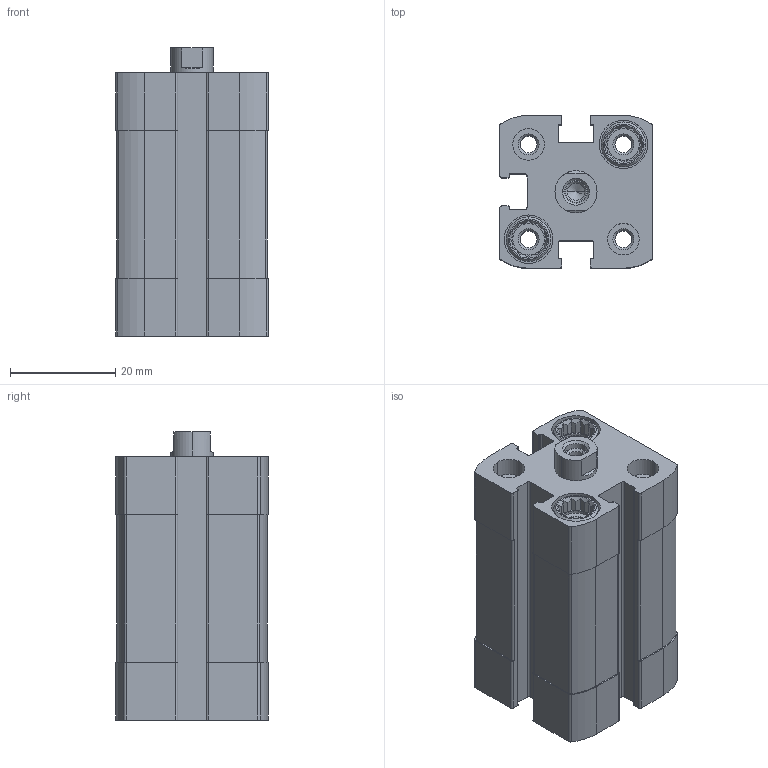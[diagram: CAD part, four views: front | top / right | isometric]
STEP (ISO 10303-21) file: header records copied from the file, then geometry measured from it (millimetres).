
FILE_DESCRIPTION (( 'STEP AP203' ), '1' );
FILE_NAME ('CCN16-15F.STEP', '2017-03-28T13:31:55', ( '' ), ( '' ), 'SwSTEP 2.0', 'SolidWorks 2016', '' );
FILE_SCHEMA (( 'CONFIG_CONTROL_DESIGN' ));
Length unit declared in the file: millimetre
Products named in the file (3): CCN-15-(Z); CCN-15_(KS); CCN16-15F
Assembly tree (2 placements, depth 2):
  CCN16-15F
    CCN-15-(Z)
    CCN-15_(KS)
Bounding box: 29 x 29 x 54.7 mm (x, y, z)
Volume: 30487.1 mm3; surface area: 16004.4 mm2
Topology: 2 solids, 2 shells, 363 faces, 938 edges, 613 vertices
Faces by surface type: plane 187, cylinder 134, cone 42
Entity records: 11501 total; most frequent: CARTESIAN_POINT 2211, DIRECTION 1892, ORIENTED_EDGE 1872, EDGE_CURVE 936, AXIS2_PLACEMENT_3D 686, VERTEX_POINT 613, VECTOR 520, LINE 520
